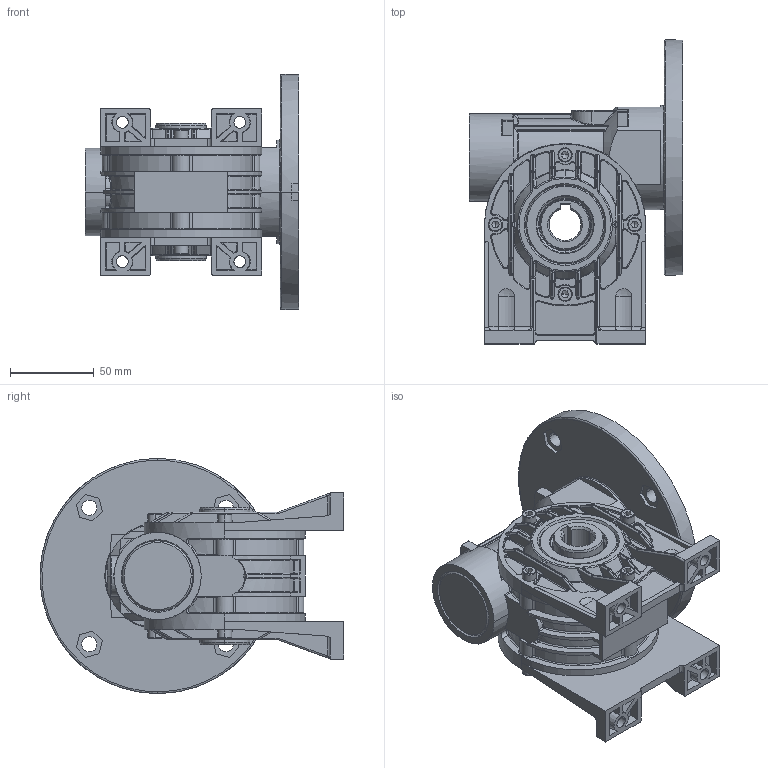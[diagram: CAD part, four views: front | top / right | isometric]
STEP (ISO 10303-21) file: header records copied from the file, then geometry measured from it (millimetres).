
FILE_DESCRIPTION (( 'STEP AP203' ), '1' );
FILE_NAME ('3F002035.STEP', '2012-07-23T05:02:33', ( 'Amministratore' ), ( 'SerteK sas' ), 'SwSTEP 2.0', 'SolidWorks 2009', '' );
FILE_SCHEMA (( 'CONFIG_CONTROL_DESIGN' ));
Products named in the file (1): 3F002035
Bounding box: 127 x 181 x 140 mm (x, y, z)
Surface area: 213472.2 mm2 (no closed solid volume)
Topology: 0 solids, 41 shells, 2757 faces, 6961 edges, 4314 vertices
Faces by surface type: cylinder 875, plane 830, bspline 816, cone 236
Entity records: 122187 total; most frequent: CARTESIAN_POINT 62358, ORIENTED_EDGE 13792, DIRECTION 10808, EDGE_CURVE 6908, VERTEX_POINT 4314, AXIS2_PLACEMENT_3D 4103, EDGE_LOOP 2914, FACE_OUTER_BOUND 2757
